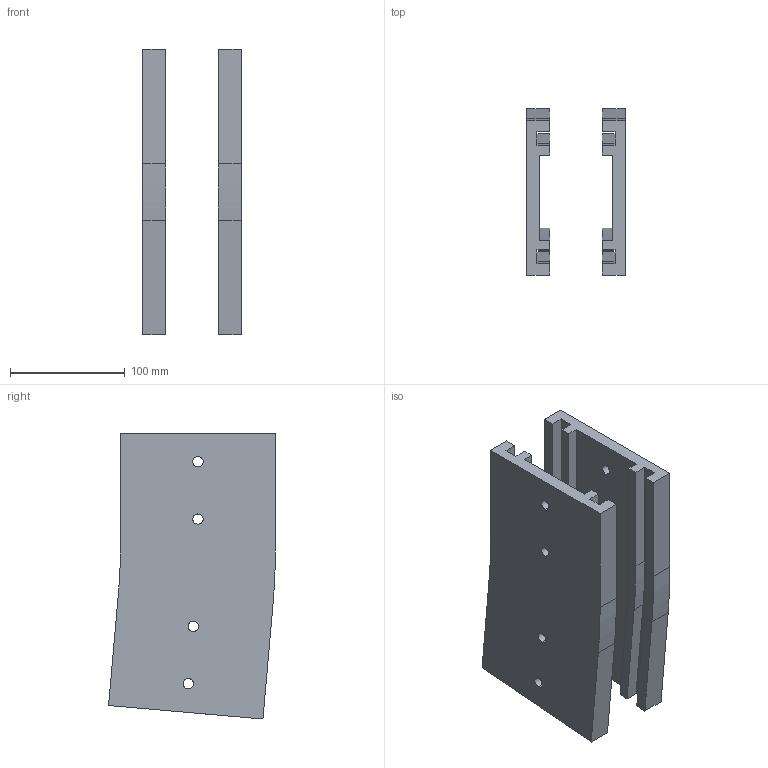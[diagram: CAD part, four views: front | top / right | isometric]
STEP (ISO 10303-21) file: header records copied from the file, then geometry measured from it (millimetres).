
FILE_DESCRIPTION (( 'STEP AP203' ), '1' );
FILE_NAME ('R2CV500-5.STEP', '2008-12-02T09:18:13', ( 'faber' ), ( '' ), 'SwSTEP 2.0', 'SolidWorks 2008', '' );
FILE_SCHEMA (( 'CONFIG_CONTROL_DESIGN' ));
Length unit declared in the file: millimetre
Products named in the file (1): R2CV500-5
Bounding box: 86 x 145.36 x 249.08 mm (x, y, z)
Volume: 856863.3 mm3; surface area: 189813.4 mm2
Topology: 2 solids, 2 shells, 84 faces, 240 edges, 160 vertices
Faces by surface type: plane 52, cylinder 32
Entity records: 2855 total; most frequent: CARTESIAN_POINT 485, ORIENTED_EDGE 480, DIRECTION 474, EDGE_CURVE 240, VECTOR 176, LINE 176, VERTEX_POINT 160, AXIS2_PLACEMENT_3D 149
